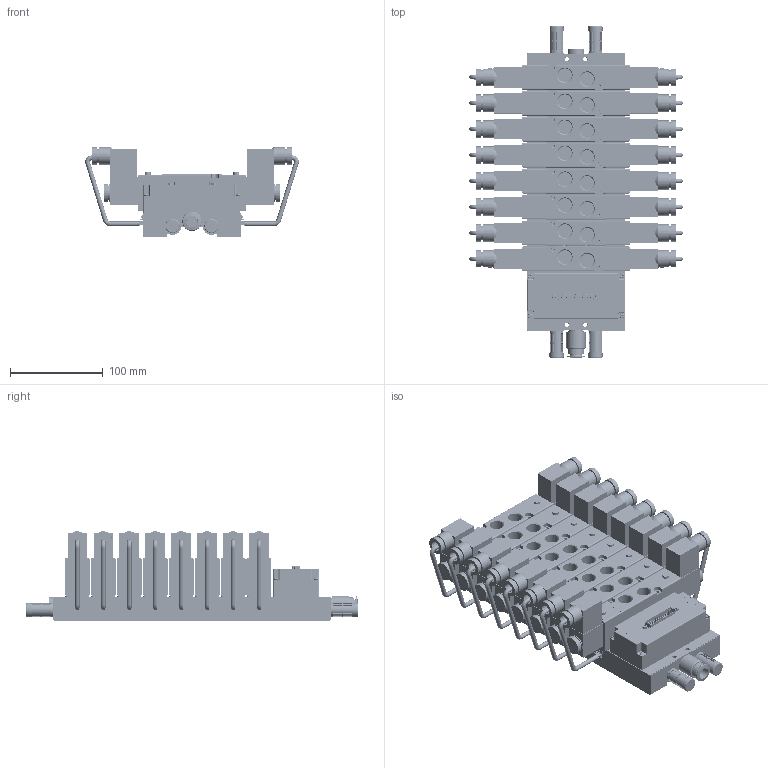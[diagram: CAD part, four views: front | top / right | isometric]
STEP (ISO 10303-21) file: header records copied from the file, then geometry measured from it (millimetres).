
FILE_DESCRIPTION (( 'STEP AP203' ), '1' );
FILE_NAME ('FV-A43-B528-S12-M1-25V2.STEP', '2024-08-31T05:04:09', ( 'L' ), ( '' ), 'SwSTEP 2.0', 'SolidWorks 2019', '' );
FILE_SCHEMA (( 'CONFIG_CONTROL_DESIGN' ));
Length unit declared in the file: millimetre
Products named in the file (7): U-1_4-30.stp; FV-M1-25.step; A43B52.step; FV-A43-B528-S12-M1-25V2; QS-G1_4-12-I.stp; 8P.step; B-1_4.stp
Assembly tree (16 placements, depth 2):
  FV-A43-B528-S12-M1-25V2
    8P.step
    B-1_4.stp
    U-1_4-30.stp  x4
    QS-G1_4-12-I.stp
    FV-M1-25.step
    A43B52.step  x8
Bounding box: 230.29 x 358.1 x 96.5 mm (x, y, z)
Volume: 2443304.4 mm3; surface area: 588114.4 mm2
Topology: 56 solids, 56 shells, 6330 faces, 16212 edges, 10433 vertices
Faces by surface type: plane 3545, cylinder 2015, torus 403, cone 202, sphere 94, bspline 71
Entity records: 77486 total; most frequent: CARTESIAN_POINT 19772, DIRECTION 12007, ORIENTED_EDGE 11734, EDGE_CURVE 5867, AXIS2_PLACEMENT_3D 4345, VERTEX_POINT 3736, VECTOR 3317, LINE 3317
